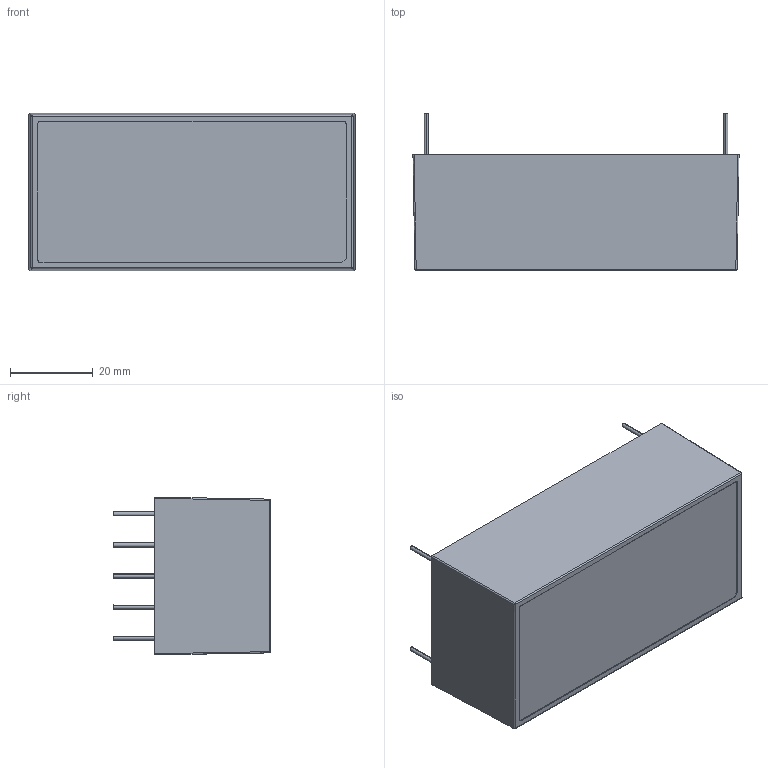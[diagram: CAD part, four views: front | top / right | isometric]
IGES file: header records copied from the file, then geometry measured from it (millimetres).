
Start section: SolidWorks IGES file using analytic representation for surfaces
Global section: file name: C:\Users\ksmith\Desktop\ECL30 Multi\ECL30-E Multi Output.IGS; native system: SolidWorks 2018; preprocessor: SolidWorks 2018; author: ksmith; date: 180912.134642; units: inch
Bounding box: 78.74 x 37.95 x 38.1 mm (x, y, z)
Surface area: 32271.7 mm2 (no closed solid volume)
Topology: 0 solids, 0 shells, 244 faces, 2022 edges, 2018 vertices
Faces by surface type: bspline 244
